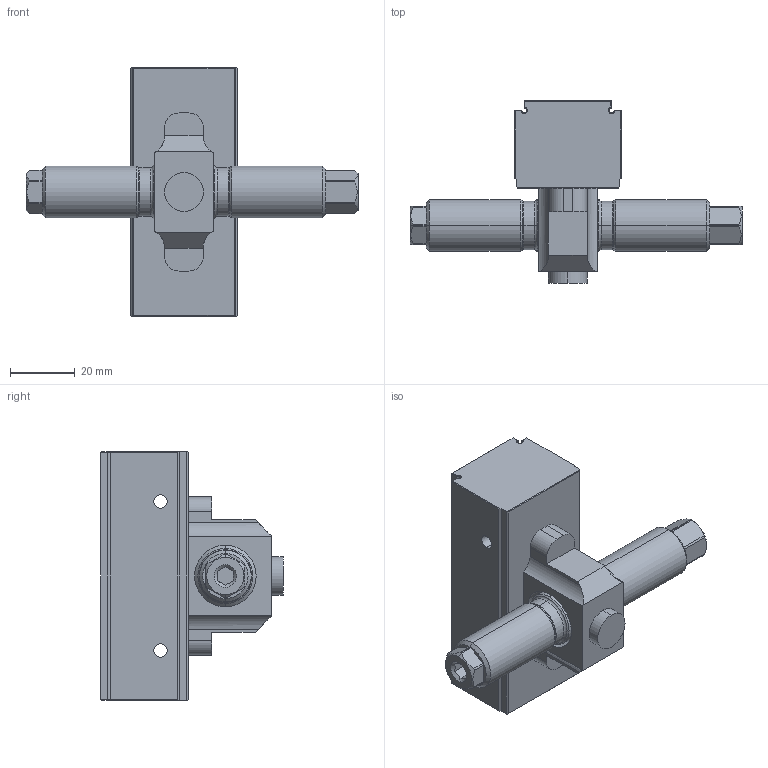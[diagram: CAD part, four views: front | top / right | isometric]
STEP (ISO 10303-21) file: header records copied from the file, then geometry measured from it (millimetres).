
FILE_DESCRIPTION (( 'STEP AP214' ), '1' );
FILE_NAME ('47085-TG27.STEP', '2023-02-10T12:51:38', ( '' ), ( '' ), 'SwSTEP 2.0', 'SolidWorks 2021', '' );
FILE_SCHEMA (( 'AUTOMOTIVE_DESIGN' ));
Length unit declared in the file: millimetre
Products named in the file (1): 47085-TG27
Bounding box: 102.5 x 56.4 x 76.6 mm (x, y, z)
Volume: 96376.3 mm3; surface area: 20938.5 mm2
Topology: 2 solids, 2 shells, 165 faces, 405 edges, 250 vertices
Faces by surface type: plane 78, cylinder 47, cone 32, torus 8
Entity records: 6903 total; most frequent: CARTESIAN_POINT 1117, DIRECTION 835, ORIENTED_EDGE 810, EDGE_CURVE 405, AXIS2_PLACEMENT_3D 300, VERTEX_POINT 250, LINE 235, VECTOR 235
